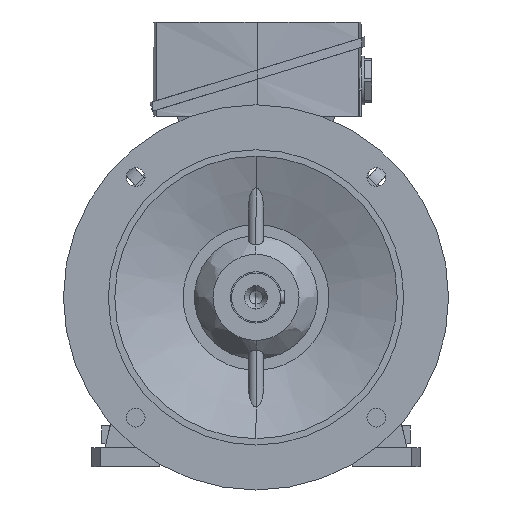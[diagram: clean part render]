
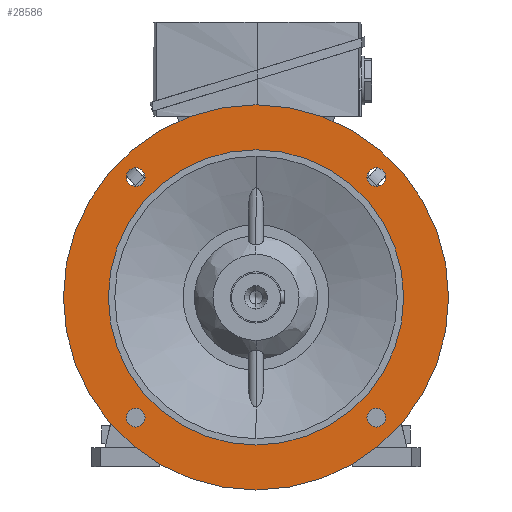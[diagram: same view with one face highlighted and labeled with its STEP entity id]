
A CAD part, left-side view. The second image highlights one B-rep face of the part: STEP entity #28586.
In plain terms, the highlighted planar face has unit normal (-1, 0, 0).
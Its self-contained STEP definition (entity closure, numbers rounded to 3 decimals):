
#817 = AXIS2_PLACEMENT_3D ( 'NONE', #871, #924, #988 ) ;
#871 = CARTESIAN_POINT ( 'NONE',  ( -50.5, -93.692, -93.692 ) ) ;
#924 = DIRECTION ( 'NONE',  ( 1., 0., 0. ) ) ;
#988 = DIRECTION ( 'NONE',  ( 0., 0., -1. ) ) ;
#1337 = CARTESIAN_POINT ( 'NONE',  ( -50.5, -93.692, 86.442 ) ) ;
#1394 = VERTEX_POINT ( 'NONE', #27651 ) ;
#1872 = VERTEX_POINT ( 'NONE', #17373 ) ;
#2293 = DIRECTION ( 'NONE',  ( 1., 0., 0. ) ) ;
#3136 = DIRECTION ( 'NONE',  ( 0., 0., 1. ) ) ;
#3237 = DIRECTION ( 'NONE',  ( 1., 0., 0. ) ) ;
#3326 = CARTESIAN_POINT ( 'NONE',  ( -50.5, 0., 0. ) ) ;
#3522 = ORIENTED_EDGE ( 'NONE', *, *, #43392, .T. ) ;
#4016 = AXIS2_PLACEMENT_3D ( 'NONE', #43608, #43553, #43523 ) ;
#6547 = VERTEX_POINT ( 'NONE', #39228 ) ;
#6609 = CIRCLE ( 'NONE', #10038, 7.25 ) ;
#7296 = CARTESIAN_POINT ( 'NONE',  ( -50.5, -93.692, -100.942 ) ) ;
#7774 = DIRECTION ( 'NONE',  ( 0., 0., -1. ) ) ;
#7832 = DIRECTION ( 'NONE',  ( 1., 0., 0. ) ) ;
#7866 = CARTESIAN_POINT ( 'NONE',  ( -50.5, 93.692, 93.692 ) ) ;
#7897 = AXIS2_PLACEMENT_3D ( 'NONE', #14073, #14068, #14031 ) ;
#8325 = CARTESIAN_POINT ( 'NONE',  ( -50.5, 93.692, -86.442 ) ) ;
#9251 = AXIS2_PLACEMENT_3D ( 'NONE', #29466, #29403, #29355 ) ;
#9287 = VERTEX_POINT ( 'NONE', #32500 ) ;
#10038 = AXIS2_PLACEMENT_3D ( 'NONE', #7866, #7832, #7774 ) ;
#10162 = EDGE_CURVE ( 'NONE', #30431, #31021, #34276, .T. ) ;
#10656 = EDGE_CURVE ( 'NONE', #34524, #1872, #26197, .T. ) ;
#11122 = CIRCLE ( 'NONE', #39410, 7.25 ) ;
#11566 = AXIS2_PLACEMENT_3D ( 'NONE', #36756, #36818, #36897 ) ;
#12213 = EDGE_CURVE ( 'NONE', #43989, #22314, #31935, .T. ) ;
#12600 = CIRCLE ( 'NONE', #45581, 115. ) ;
#12983 = CIRCLE ( 'NONE', #37966, 150. ) ;
#13093 = CIRCLE ( 'NONE', #44218, 7.25 ) ;
#13538 = EDGE_CURVE ( 'NONE', #22314, #43989, #38077, .T. ) ;
#13556 = EDGE_LOOP ( 'NONE', ( #27682, #24649 ) ) ;
#14031 = DIRECTION ( 'NONE',  ( 0., 0., -1. ) ) ;
#14068 = DIRECTION ( 'NONE',  ( 1., 0., 0. ) ) ;
#14073 = CARTESIAN_POINT ( 'NONE',  ( -50.5, -93.692, 93.692 ) ) ;
#14144 = EDGE_CURVE ( 'NONE', #27898, #9287, #13093, .T. ) ;
#14291 = CIRCLE ( 'NONE', #43142, 115. ) ;
#14724 = CARTESIAN_POINT ( 'NONE',  ( -50.5, 93.692, 86.442 ) ) ;
#14934 = CIRCLE ( 'NONE', #16654, 150. ) ;
#15077 = EDGE_CURVE ( 'NONE', #1872, #34524, #11122, .T. ) ;
#15434 = EDGE_CURVE ( 'NONE', #6547, #17406, #12983, .T. ) ;
#15653 = CIRCLE ( 'NONE', #38392, 7.25 ) ;
#15698 = ORIENTED_EDGE ( 'NONE', *, *, #15434, .F. ) ;
#16296 = FACE_BOUND ( 'NONE', #34081, .T. ) ;
#16330 = CARTESIAN_POINT ( 'NONE',  ( -50.5, 0., 0. ) ) ;
#16654 = AXIS2_PLACEMENT_3D ( 'NONE', #3326, #3237, #3136 ) ;
#17373 = CARTESIAN_POINT ( 'NONE',  ( -50.5, -93.692, 100.942 ) ) ;
#17406 = VERTEX_POINT ( 'NONE', #33228 ) ;
#19404 = ORIENTED_EDGE ( 'NONE', *, *, #34010, .F. ) ;
#19928 = DIRECTION ( 'NONE',  ( 0., 0., 1. ) ) ;
#20270 = ORIENTED_EDGE ( 'NONE', *, *, #10656, .T. ) ;
#20879 = EDGE_CURVE ( 'NONE', #31021, #30431, #6609, .T. ) ;
#22314 = VERTEX_POINT ( 'NONE', #39935 ) ;
#22328 = CARTESIAN_POINT ( 'NONE',  ( -50.5, 93.692, -93.692 ) ) ;
#22589 = DIRECTION ( 'NONE',  ( 1., 0., 0. ) ) ;
#22803 = DIRECTION ( 'NONE',  ( 0., 0., -1. ) ) ;
#23743 = CARTESIAN_POINT ( 'NONE',  ( -50.5, 0., 0. ) ) ;
#24649 = ORIENTED_EDGE ( 'NONE', *, *, #13538, .T. ) ;
#24749 = CARTESIAN_POINT ( 'NONE',  ( -50.5, 93.692, -93.692 ) ) ;
#24883 = DIRECTION ( 'NONE',  ( 1., 0., 0. ) ) ;
#25674 = DIRECTION ( 'NONE',  ( 0., 0., -1. ) ) ;
#26197 = CIRCLE ( 'NONE', #7897, 7.25 ) ;
#27295 = DIRECTION ( 'NONE',  ( 0., 0., 1. ) ) ;
#27651 = CARTESIAN_POINT ( 'NONE',  ( -50.5, 0., 115. ) ) ;
#27682 = ORIENTED_EDGE ( 'NONE', *, *, #12213, .T. ) ;
#27836 = DIRECTION ( 'NONE',  ( 0., 0., 1. ) ) ;
#27890 = DIRECTION ( 'NONE',  ( 1., 0., 0. ) ) ;
#27898 = VERTEX_POINT ( 'NONE', #8325 ) ;
#27950 = CARTESIAN_POINT ( 'NONE',  ( -50.5, 0., 0. ) ) ;
#28586 = ADVANCED_FACE ( 'NONE', ( #40191, #29114, #45439, #16296, #28845, #32116 ), #36187, .T. ) ;
#28845 = FACE_BOUND ( 'NONE', #30023, .T. ) ;
#29114 = FACE_OUTER_BOUND ( 'NONE', #39977, .T. ) ;
#29355 = DIRECTION ( 'NONE',  ( 0., 0., -1. ) ) ;
#29403 = DIRECTION ( 'NONE',  ( 1., 0., 0. ) ) ;
#29466 = CARTESIAN_POINT ( 'NONE',  ( -50.5, 93.692, 93.692 ) ) ;
#30023 = EDGE_LOOP ( 'NONE', ( #33411, #30375 ) ) ;
#30148 = ORIENTED_EDGE ( 'NONE', *, *, #10162, .T. ) ;
#30375 = ORIENTED_EDGE ( 'NONE', *, *, #14144, .T. ) ;
#30431 = VERTEX_POINT ( 'NONE', #14724 ) ;
#31021 = VERTEX_POINT ( 'NONE', #36908 ) ;
#31879 = EDGE_LOOP ( 'NONE', ( #20270, #34988 ) ) ;
#31935 = CIRCLE ( 'NONE', #4016, 7.25 ) ;
#32116 = FACE_BOUND ( 'NONE', #13556, .T. ) ;
#32500 = CARTESIAN_POINT ( 'NONE',  ( -50.5, 93.692, -100.942 ) ) ;
#33228 = CARTESIAN_POINT ( 'NONE',  ( -50.5, 0., 150. ) ) ;
#33411 = ORIENTED_EDGE ( 'NONE', *, *, #34654, .T. ) ;
#34010 = EDGE_CURVE ( 'NONE', #17406, #6547, #14934, .T. ) ;
#34081 = EDGE_LOOP ( 'NONE', ( #30148, #40297 ) ) ;
#34276 = CIRCLE ( 'NONE', #9251, 7.25 ) ;
#34524 = VERTEX_POINT ( 'NONE', #1337 ) ;
#34562 = ORIENTED_EDGE ( 'NONE', *, *, #43888, .T. ) ;
#34654 = EDGE_CURVE ( 'NONE', #9287, #27898, #15653, .T. ) ;
#34806 = VERTEX_POINT ( 'NONE', #42337 ) ;
#34988 = ORIENTED_EDGE ( 'NONE', *, *, #15077, .T. ) ;
#35784 = DIRECTION ( 'NONE',  ( 0., 0., -1. ) ) ;
#35837 = DIRECTION ( 'NONE',  ( 1., 0., 0. ) ) ;
#35909 = CARTESIAN_POINT ( 'NONE',  ( -50.5, -93.692, 93.692 ) ) ;
#36187 = PLANE ( 'NONE',  #11566 ) ;
#36692 = EDGE_LOOP ( 'NONE', ( #3522, #34562 ) ) ;
#36756 = CARTESIAN_POINT ( 'NONE',  ( -50.5, 132.5, 0. ) ) ;
#36818 = DIRECTION ( 'NONE',  ( -1., 0., 0. ) ) ;
#36897 = DIRECTION ( 'NONE',  ( 0., 0., 1. ) ) ;
#36908 = CARTESIAN_POINT ( 'NONE',  ( -50.5, 93.692, 100.942 ) ) ;
#37966 = AXIS2_PLACEMENT_3D ( 'NONE', #27950, #27890, #27836 ) ;
#38077 = CIRCLE ( 'NONE', #817, 7.25 ) ;
#38392 = AXIS2_PLACEMENT_3D ( 'NONE', #22328, #22589, #22803 ) ;
#39228 = CARTESIAN_POINT ( 'NONE',  ( -50.5, 0., -150. ) ) ;
#39410 = AXIS2_PLACEMENT_3D ( 'NONE', #35909, #35837, #35784 ) ;
#39935 = CARTESIAN_POINT ( 'NONE',  ( -50.5, -93.692, -86.442 ) ) ;
#39977 = EDGE_LOOP ( 'NONE', ( #19404, #15698 ) ) ;
#40191 = FACE_BOUND ( 'NONE', #36692, .T. ) ;
#40297 = ORIENTED_EDGE ( 'NONE', *, *, #20879, .T. ) ;
#40955 = DIRECTION ( 'NONE',  ( 1., 0., 0. ) ) ;
#42337 = CARTESIAN_POINT ( 'NONE',  ( -50.5, 0., -115. ) ) ;
#43142 = AXIS2_PLACEMENT_3D ( 'NONE', #23743, #2293, #27295 ) ;
#43392 = EDGE_CURVE ( 'NONE', #1394, #34806, #12600, .T. ) ;
#43523 = DIRECTION ( 'NONE',  ( 0., 0., -1. ) ) ;
#43553 = DIRECTION ( 'NONE',  ( 1., 0., 0. ) ) ;
#43608 = CARTESIAN_POINT ( 'NONE',  ( -50.5, -93.692, -93.692 ) ) ;
#43888 = EDGE_CURVE ( 'NONE', #34806, #1394, #14291, .T. ) ;
#43989 = VERTEX_POINT ( 'NONE', #7296 ) ;
#44218 = AXIS2_PLACEMENT_3D ( 'NONE', #24749, #24883, #25674 ) ;
#45439 = FACE_BOUND ( 'NONE', #31879, .T. ) ;
#45581 = AXIS2_PLACEMENT_3D ( 'NONE', #16330, #40955, #19928 ) ;
